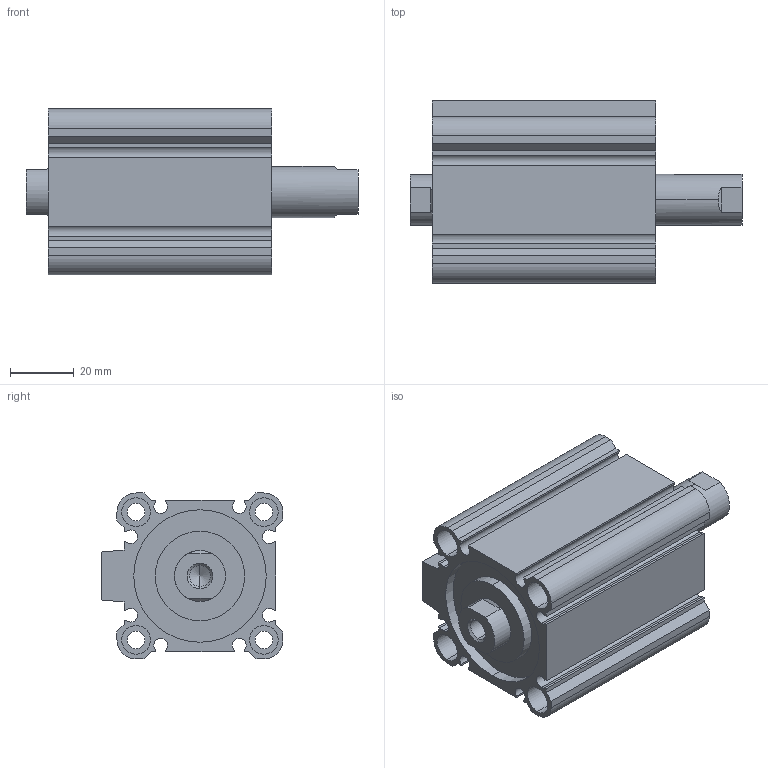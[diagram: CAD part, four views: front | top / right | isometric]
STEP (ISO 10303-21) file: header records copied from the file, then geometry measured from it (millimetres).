
FILE_DESCRIPTION (( 'STEP AP203' ), '1' );
FILE_NAME ('CCMB40-20F-P.STEP', '2020-08-05T11:23:39', ( '' ), ( '' ), 'SwSTEP 2.0', 'SolidWorks 2019', '' );
FILE_SCHEMA (( 'CONFIG_CONTROL_DESIGN' ));
Length unit declared in the file: millimetre
Products named in the file (1): CCMB40-20F-P
Bounding box: 104 x 57 x 52 mm (x, y, z)
Volume: 136668.3 mm3; surface area: 51177.5 mm2
Topology: 2 solids, 2 shells, 164 faces, 414 edges, 270 vertices
Faces by surface type: plane 78, cylinder 74, cone 12
Entity records: 5025 total; most frequent: DIRECTION 888, CARTESIAN_POINT 869, ORIENTED_EDGE 820, EDGE_CURVE 410, AXIS2_PLACEMENT_3D 321, VERTEX_POINT 270, VECTOR 246, LINE 246
